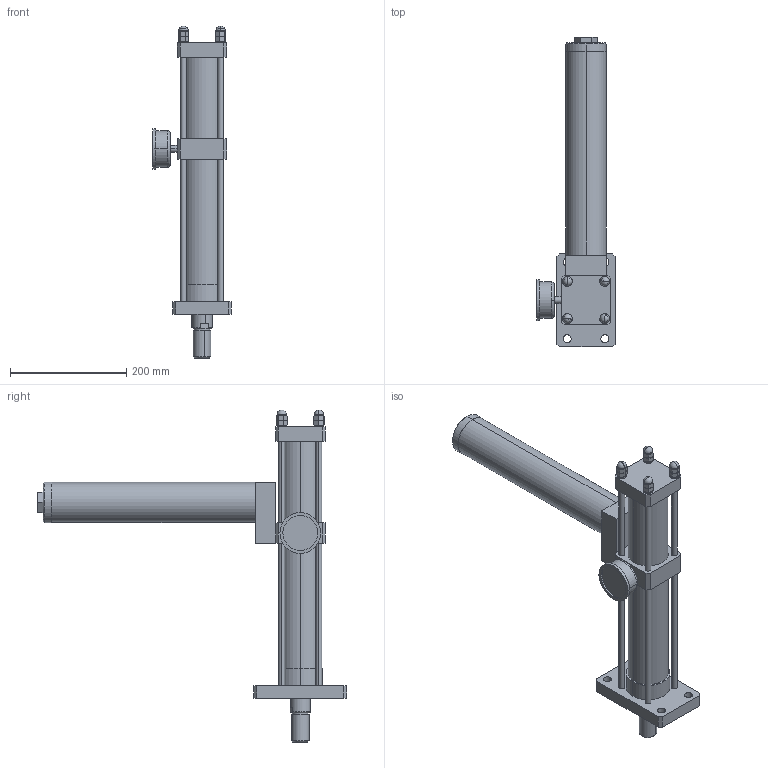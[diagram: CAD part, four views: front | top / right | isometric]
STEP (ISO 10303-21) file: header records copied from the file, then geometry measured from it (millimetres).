
FILE_DESCRIPTION (( 'STEP AP203' ), '1' );
FILE_NAME ('JRAA-63-150-10L-1T.STEP', '2025-01-04T03:26:40', ( 'China' ), ( 'Home' ), 'SwSTEP 2.0', 'SolidWorks 2020', '' );
FILE_SCHEMA (( 'CONFIG_CONTROL_DESIGN' ));
Length unit declared in the file: millimetre
Products named in the file (5): M10; JRAA-63-150-10L-1T; ヶ裝; 翋极; yalibiao
Assembly tree (7 placements, depth 2):
  JRAA-63-150-10L-1T
    翋极
    ヶ裝
    M10  x4
    yalibiao
Bounding box: 134.5 x 532.5 x 571 mm (x, y, z)
Volume: 2718224.7 mm3; surface area: 519268.2 mm2
Topology: 15 solids, 16 shells, 405 faces, 940 edges, 572 vertices
Faces by surface type: plane 147, cone 126, cylinder 122, sphere 8, bspline 2
Entity records: 7174 total; most frequent: CARTESIAN_POINT 1481, DIRECTION 1115, ORIENTED_EDGE 1002, EDGE_CURVE 501, AXIS2_PLACEMENT_3D 436, VERTEX_POINT 321, EDGE_LOOP 270, VECTOR 243
